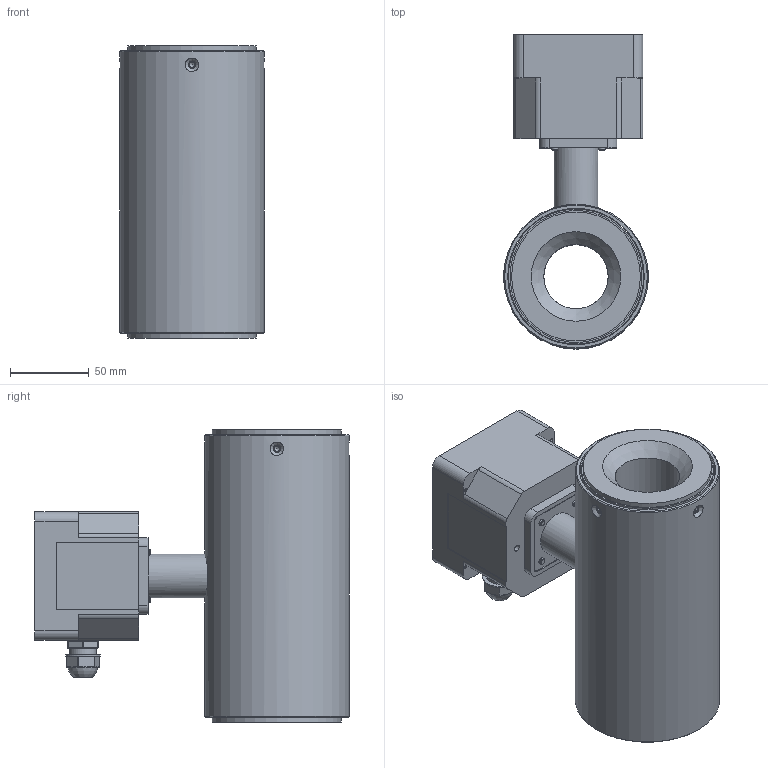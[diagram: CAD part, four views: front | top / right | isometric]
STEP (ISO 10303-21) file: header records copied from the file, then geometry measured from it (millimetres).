
FILE_DESCRIPTION(/* description */ (''),/* implementation_level */ '2;1');
FILE_NAME(/* name */ 'D:\ТЭК\01 Михайлычев\ПРЭМ\Модели для сайта\100F\Workspaces\Рабочее пространство\Разработка 40S\ПРЭМ-40S.stp',/* time_stamp */ '2022-06-23T16:10:36+03:00',/* author */ ('d.mihailichev'),/* organization */ (''),/* preprocessor_version */ 'ST-DEVELOPER v18.1',/* originating_system */ 'Autodesk Inventor 2020',/* authorisation */ '');
FILE_SCHEMA (('AUTOMOTIVE_DESIGN { 1 0 10303 214 3 1 1 }'));
Products named in the file (1): ПРЭМ-40S
Bounding box: 92 x 200 x 186 mm (x, y, z)
Volume: 534543.6 mm3; surface area: 267344.7 mm2
Topology: 5 solids, 23 shells, 2240 faces, 5874 edges, 3775 vertices
Faces by surface type: plane 1323, bspline 457, cylinder 320, sphere 60, cone 56, torus 24
Full cylindrical faces by diameter (mm): 0.431 x1, 0.546 x1, 1.159 x2, 1.5 x2, 1.7 x4, 1.8 x4, 2.5 x4, 3.242 x4, 3.5 x4, 4 x12, 4.2 x1, 4.5 x4, 4.6 x4, 4.7 x4, 5 x2, 5.472 x1, 5.5 x7, 7 x8, 7.5 x4, 8.5 x4, 11 x8, 12 x2, 13 x2, 14 x2, 15 x1, 17 x6, 18 x1, 19.094 x2, 20.5 x1, 21 x1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
Entity records: 78892 total; most frequent: CARTESIAN_POINT 24270, ORIENTED_EDGE 11560, DIRECTION 9279, EDGE_CURVE 5780, LINE 3855, VECTOR 3855, VERTEX_POINT 3781, AXIS2_PLACEMENT_3D 2712
